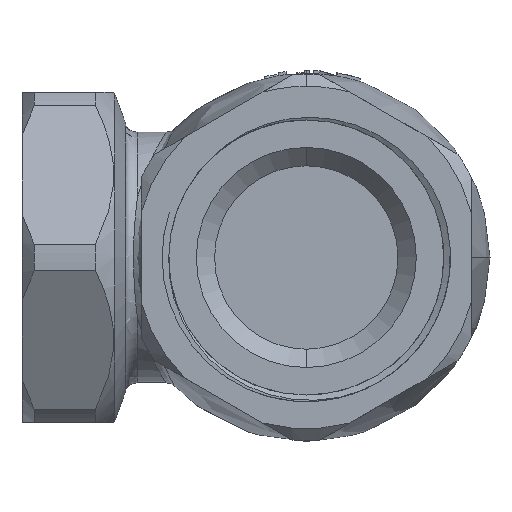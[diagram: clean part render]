
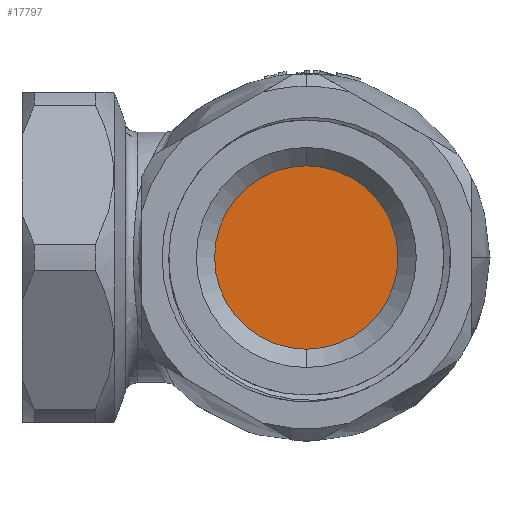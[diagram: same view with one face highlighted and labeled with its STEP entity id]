
A CAD part, front view. The second image highlights one B-rep face of the part: STEP entity #17797.
In plain terms, the highlighted planar face has unit normal (0, -1, 0).
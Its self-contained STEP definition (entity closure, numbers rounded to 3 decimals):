
#1687 = CARTESIAN_POINT ( 'NONE',  ( 0., -25., 0. ) ) ;
#2302 = ORIENTED_EDGE ( 'NONE', *, *, #7369, .F. ) ;
#2826 = CARTESIAN_POINT ( 'NONE',  ( 0., -25., 0. ) ) ;
#3027 = VERTEX_POINT ( 'NONE', #12497 ) ;
#4672 = FACE_OUTER_BOUND ( 'NONE', #8433, .T. ) ;
#4962 = CIRCLE ( 'NONE', #5878, 15. ) ;
#5878 = AXIS2_PLACEMENT_3D ( 'NONE', #2826, #14572, #15939 ) ;
#6027 = PLANE ( 'NONE',  #6296 ) ;
#6296 = AXIS2_PLACEMENT_3D ( 'NONE', #6422, #10569, #13508 ) ;
#6422 = CARTESIAN_POINT ( 'NONE',  ( 26., -25., 0. ) ) ;
#7369 = EDGE_CURVE ( 'NONE', #9615, #3027, #11849, .T. ) ;
#8083 = DIRECTION ( 'NONE',  ( 0., 0., 1. ) ) ;
#8433 = EDGE_LOOP ( 'NONE', ( #11695, #2302 ) ) ;
#9615 = VERTEX_POINT ( 'NONE', #17376 ) ;
#10569 = DIRECTION ( 'NONE',  ( 0., 1., 0. ) ) ;
#11695 = ORIENTED_EDGE ( 'NONE', *, *, #18557, .F. ) ;
#11849 = CIRCLE ( 'NONE', #14344, 15. ) ;
#12497 = CARTESIAN_POINT ( 'NONE',  ( 0., -25., 15. ) ) ;
#13508 = DIRECTION ( 'NONE',  ( 0., 0., 1. ) ) ;
#14344 = AXIS2_PLACEMENT_3D ( 'NONE', #1687, #16812, #8083 ) ;
#14572 = DIRECTION ( 'NONE',  ( 0., 1., 0. ) ) ;
#15939 = DIRECTION ( 'NONE',  ( 0., 0., 1. ) ) ;
#16812 = DIRECTION ( 'NONE',  ( 0., 1., 0. ) ) ;
#17376 = CARTESIAN_POINT ( 'NONE',  ( 0., -25., -15. ) ) ;
#17797 = ADVANCED_FACE ( 'NONE', ( #4672 ), #6027, .F. ) ;
#18557 = EDGE_CURVE ( 'NONE', #3027, #9615, #4962, .T. ) ;
